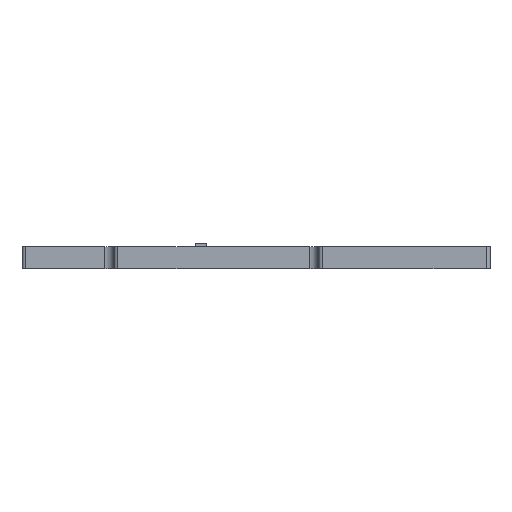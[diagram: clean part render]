
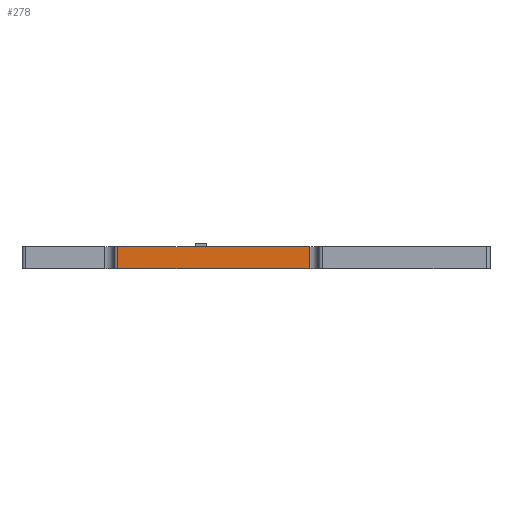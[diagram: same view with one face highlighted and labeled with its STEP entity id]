
A CAD part, front view. The second image highlights one B-rep face of the part: STEP entity #278.
In plain terms, the highlighted planar face has unit normal (0, -1, 0).
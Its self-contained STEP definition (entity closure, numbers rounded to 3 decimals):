
#278=ADVANCED_FACE('',(#1365),#1367,.T.);
#1365=FACE_BOUND('',#1366,.T.);
#1366=EDGE_LOOP('',(#2245,#2246,#2247,#2248));
#1367=PLANE('',#1368);
#1368=AXIS2_PLACEMENT_3D('',#1369,#1370,#1371);
#1369=CARTESIAN_POINT('',(-97.5,-100.,0.));
#1370=DIRECTION('',(0.,-1.,0.));
#1371=DIRECTION('',(1.,0.,0.));
#2245=ORIENTED_EDGE('',*,*,#2591,.T.);
#2246=ORIENTED_EDGE('',*,*,#2681,.T.);
#2247=ORIENTED_EDGE('',*,*,#2682,.F.);
#2248=ORIENTED_EDGE('',*,*,#2683,.F.);
#2591=EDGE_CURVE('',#2821,#2822,#2823,.T.);
#2681=EDGE_CURVE('',#2822,#3001,#3002,.T.);
#2682=EDGE_CURVE('',#3003,#3001,#3004,.T.);
#2683=EDGE_CURVE('',#2821,#3003,#3005,.T.);
#2821=VERTEX_POINT('',#3233);
#2822=VERTEX_POINT('',#3234);
#2823=LINE('',#3235,#3236);
#3001=VERTEX_POINT('',#3661);
#3002=LINE('',#3662,#3663);
#3003=VERTEX_POINT('',#3665);
#3004=LINE('',#3666,#3667);
#3005=LINE('',#3669,#3670);
#3233=CARTESIAN_POINT('',(-97.5,-100.,0.));
#3234=CARTESIAN_POINT('',(6.5,-100.,0.));
#3235=CARTESIAN_POINT('',(-97.5,-100.,0.));
#3236=VECTOR('',#3237,1.);
#3237=DIRECTION('',(1.,0.,0.));
#3661=CARTESIAN_POINT('',(6.5,-100.,12.));
#3662=CARTESIAN_POINT('',(6.5,-100.,0.));
#3663=VECTOR('',#3664,1.);
#3664=DIRECTION('',(0.,0.,1.));
#3665=CARTESIAN_POINT('',(-97.5,-100.,12.));
#3666=CARTESIAN_POINT('',(-97.5,-100.,12.));
#3667=VECTOR('',#3668,1.);
#3668=DIRECTION('',(1.,0.,0.));
#3669=CARTESIAN_POINT('',(-97.5,-100.,0.));
#3670=VECTOR('',#3671,1.);
#3671=DIRECTION('',(0.,0.,1.));
